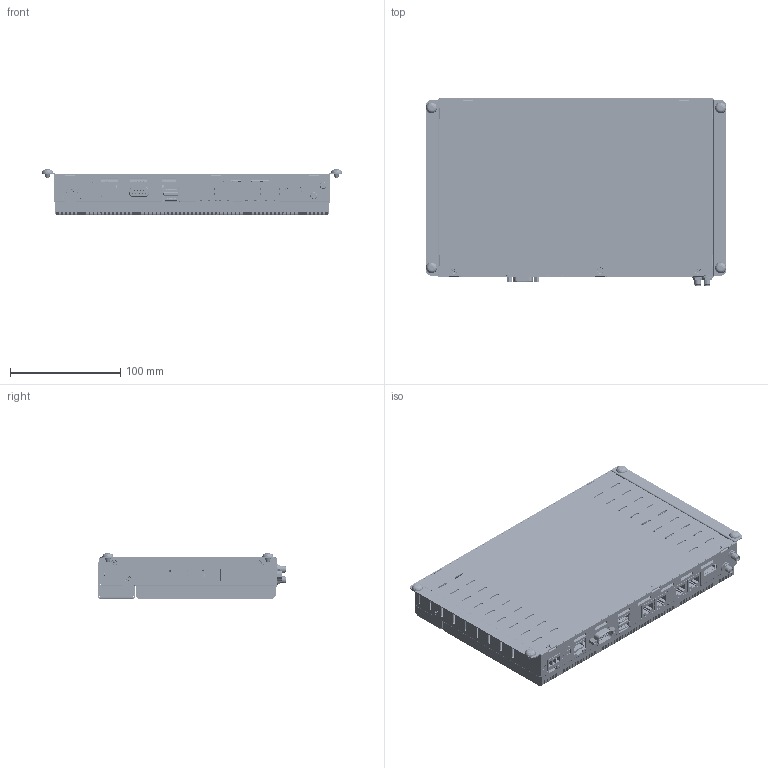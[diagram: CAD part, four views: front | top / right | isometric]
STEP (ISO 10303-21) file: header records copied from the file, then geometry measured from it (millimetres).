
FILE_DESCRIPTION((''),'2;1');
FILE_NAME('EC2A-100','2026-06-02T13:55:55',('gijyu181'),(''),'CREO PARAMETRIC BY PTC INC, 2018050','CREO PARAMETRIC BY PTC INC, 2018050','');
FILE_SCHEMA(('CONFIG_CONTROL_DESIGN','SHAPE_APPEARANCE_LAYERS_GROUPS'));
Products named in the file (1): EC2A-100
Bounding box: 272 x 170.54 x 40.9 mm (x, y, z)
Volume: 525342.7 mm3; surface area: 473723 mm2
Topology: 31 solids, 65 shells, 23218 faces, 68212 edges, 45038 vertices
Faces by surface type: plane 16197, cylinder 5204, extrusion 1160, cone 250, bspline 171, torus 157, sphere 67, revolution 12
Entity records: 886647 total; most frequent: CARTESIAN_POINT 163542, ORIENTED_EDGE 135481, DIRECTION 120264, EDGE_CURVE 68150, VECTOR 54810, LINE 53650, VERTEX_POINT 45039, AXIS2_PLACEMENT_3D 32721
